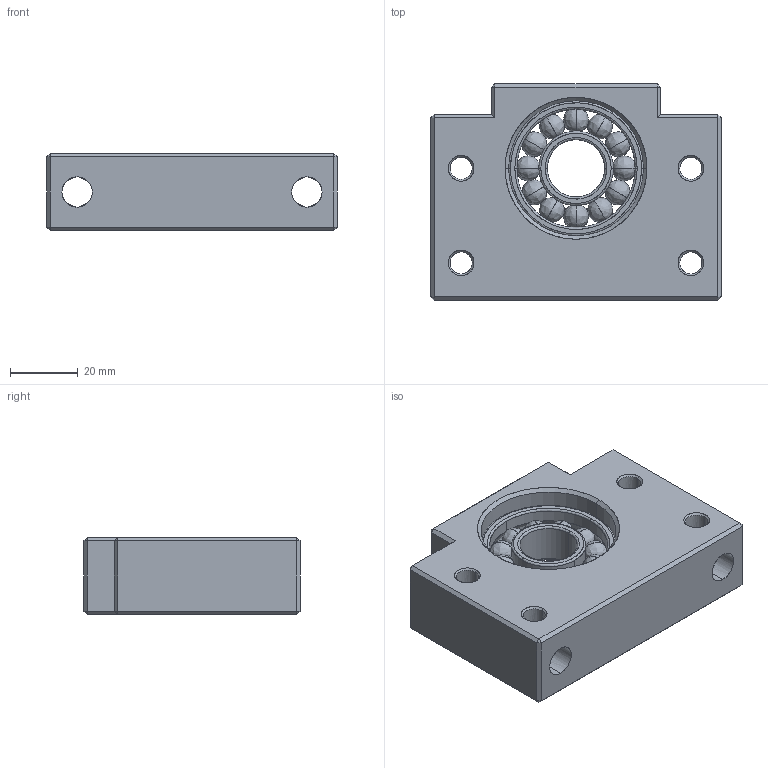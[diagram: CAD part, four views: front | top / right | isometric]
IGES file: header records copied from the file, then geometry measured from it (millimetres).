
Start section: SolidWorks IGES file using analytic representation for surfaces
Global section: file name: Z:\Accessories\_GC_!!!\SYK\Support unit\BF\BF17.IGS; native system: SolidWorks 2015; preprocessor: SolidWorks 2015; author: User; date: 170504.151257; units: millimetre
Bounding box: 86 x 64 x 23 mm (x, y, z)
Surface area: 27973.5 mm2 (no closed solid volume)
Topology: 0 solids, 0 shells, 158 faces, 2204 edges, 2160 vertices
Faces by surface type: bspline 96, revolution 62
